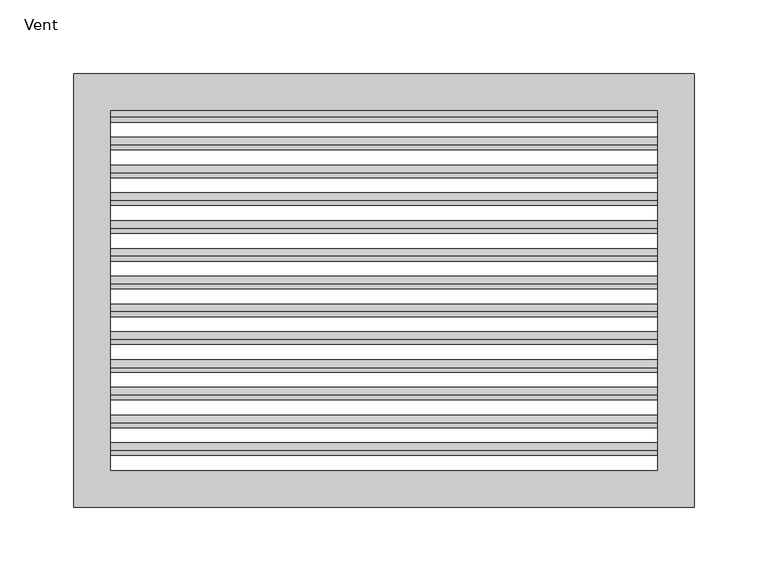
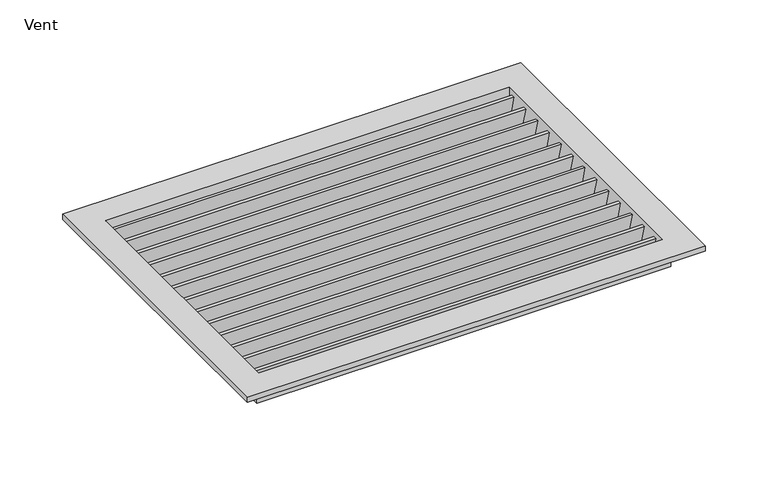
"""IFC4 building model written with IfcOpenShell, lengths in millimetres: air terminal geometry, Fire-Products_Fire-Protection_Regency-Fireplace_Ventilation-Grill : Vent."""

from ifc_helpers import new_model, si_unit, frame, origin, place, context, project, spatial, polyline, outline, extrude, faceted_brep, source, transform, mapped, element, save


def vent_1f9427f6(model_context):
    return source(origin(), model_context, "Body", "SolidModel", [
        extrude(outline(polyline([(117.2923296, 0.0), (122.6513134, -20.0), (119.5263134, -20.0), (114.1673296, 0.0), (117.2923296, 0.0)])), frame((-185.42, 0.0, 0.0), z_axis=(1.0, 0.0, 0.0), x_axis=(0.0, 1.0, 0.0)), (0.0, 0.0, 1.0), 370.84),
        extrude(outline(polyline([(98.4460276, 0.0), (103.8050115, -20.0), (100.6800115, -20.0), (95.3210276, 0.0), (98.4460276, 0.0)])), frame((-185.42, 0.0, 0.0), z_axis=(1.0, 0.0, 0.0), x_axis=(0.0, 1.0, 0.0)), (0.0, 0.0, 1.0), 370.84),
        extrude(outline(polyline([(79.5997257, 0.0), (84.9587095, -20.0), (81.8337095, -20.0), (76.4747257, 0.0), (79.5997257, 0.0)])), frame((-185.42, 0.0, 0.0), z_axis=(1.0, 0.0, 0.0), x_axis=(0.0, 1.0, 0.0)), (0.0, 0.0, 1.0), 370.84),
        extrude(outline(polyline([(60.7534237, 0.0), (66.1124076, -20.0), (62.9874076, -20.0), (57.6284237, 0.0), (60.7534237, 0.0)])), frame((-185.42, 0.0, 0.0), z_axis=(1.0, 0.0, 0.0), x_axis=(0.0, 1.0, 0.0)), (0.0, 0.0, 1.0), 370.84),
        extrude(outline(polyline([(41.9071218, 0.0), (47.2661056, -20.0), (44.1411056, -20.0), (38.7821218, 0.0), (41.9071218, 0.0)])), frame((-185.42, 0.0, 0.0), z_axis=(1.0, 0.0, 0.0), x_axis=(0.0, 1.0, 0.0)), (0.0, 0.0, 1.0), 370.84),
        extrude(outline(polyline([(23.0608198, 0.0), (28.4198037, -20.0), (25.2948037, -20.0), (19.9358198, 0.0), (23.0608198, 0.0)])), frame((-185.42, 0.0, 0.0), z_axis=(1.0, 0.0, 0.0), x_axis=(0.0, 1.0, 0.0)), (0.0, 0.0, 1.0), 370.84),
        extrude(outline(polyline([(4.2145178, 0.0), (9.5735017, -20.0), (6.4485017, -20.0), (1.0895178, 0.0), (4.2145178, 0.0)])), frame((-185.42, 0.0, 0.0), z_axis=(1.0, 0.0, 0.0), x_axis=(0.0, 1.0, 0.0)), (0.0, 0.0, 1.0), 370.84),
        extrude(outline(polyline([(-14.6317841, 0.0), (-9.2728003, -20.0), (-12.3978003, -20.0), (-17.7567841, 0.0), (-14.6317841, 0.0)])), frame((-185.42, 0.0, 0.0), z_axis=(1.0, 0.0, 0.0), x_axis=(0.0, 1.0, 0.0)), (0.0, 0.0, 1.0), 370.84),
        extrude(outline(polyline([(-33.4780861, 0.0), (-28.1191022, -20.0), (-31.2441022, -20.0), (-36.6030861, 0.0), (-33.4780861, 0.0)])), frame((-185.42, 0.0, 0.0), z_axis=(1.0, 0.0, 0.0), x_axis=(0.0, 1.0, 0.0)), (0.0, 0.0, 1.0), 370.84),
        extrude(outline(polyline([(-52.324388, 0.0), (-46.9654042, -20.0), (-50.0904042, -20.0), (-55.449388, 0.0), (-52.324388, 0.0)])), frame((-185.42, 0.0, 0.0), z_axis=(1.0, 0.0, 0.0), x_axis=(0.0, 1.0, 0.0)), (0.0, 0.0, 1.0), 370.84),
        extrude(outline(polyline([(-71.17069, 0.0), (-65.8117061, -20.0), (-68.9367061, -20.0), (-74.29569, 0.0), (-71.17069, 0.0)])), frame((-185.42, 0.0, 0.0), z_axis=(1.0, 0.0, 0.0), x_axis=(0.0, 1.0, 0.0)), (0.0, 0.0, 1.0), 370.84),
        extrude(outline(polyline([(-90.0169919, 0.0), (-84.6580081, -20.0), (-87.7830081, -20.0), (-93.1419919, 0.0), (-90.0169919, 0.0)])), frame((-185.42, 0.0, 0.0), z_axis=(1.0, 0.0, 0.0), x_axis=(0.0, 1.0, 0.0)), (0.0, 0.0, 1.0), 370.84),
        extrude(outline(polyline([(-108.8632939, 0.0), (-103.50431, -20.0), (-106.62931, -20.0), (-111.9882939, 0.0), (-108.8632939, 0.0)])), frame((-185.42, 0.0, 0.0), z_axis=(1.0, 0.0, 0.0), x_axis=(0.0, 1.0, 0.0)), (0.0, 0.0, 1.0), 370.84),
        faceted_brep([(190.5, -127.0, -20.0), (190.5, -127.0, 0.0), (-190.5, -127.0, 0.0), (-190.5, -127.0, -20.0), (185.5, -122.0, 5.0), (185.5, -122.0, -20.0), (-185.5, -122.0, -20.0), (-185.5, -122.0, 5.0), (210.5, -147.0, 0.0), (210.5, -147.0, 5.0), (-210.5, -147.0, 5.0), (-210.5, -147.0, 0.0), (-190.5, 127.0, 0.0), (-190.5, 127.0, -20.0), (-185.5, 122.0, -20.0), (-185.5, 122.0, 5.0), (-210.5, 147.0, 5.0), (-210.5, 147.0, 0.0), (190.5, 127.0, 0.0), (190.5, 127.0, -20.0), (185.5, 122.0, -20.0), (185.5, 122.0, 5.0), (210.5, 147.0, 5.0), (210.5, 147.0, 0.0)], [[[0, 1, 2, 3]], [[4, 5, 6, 7]], [[8, 9, 10, 11]], [[3, 2, 12, 13]], [[7, 6, 14, 15]], [[11, 10, 16, 17]], [[13, 12, 18, 19]], [[15, 14, 20, 21]], [[17, 16, 22, 23]], [[11, 17, 23, 8], [1, 18, 12, 2]], [[19, 18, 1, 0]], [[3, 13, 19, 0], [5, 20, 14, 6]], [[21, 20, 5, 4]], [[9, 22, 16, 10], [7, 15, 21, 4]], [[23, 22, 9, 8]]]),
    ])


if __name__ == "__main__":
    model = new_model("IFC4")
    model_context = context("Model", 3, world=origin())
    ifc_project = project(units=[si_unit("LENGTHUNIT", "METRE", prefix="MILLI")], contexts=[model_context])
    site = spatial("IfcSite", under=ifc_project)
    building = spatial("IfcBuilding", under=site)
    placement = place(None, origin())
    vent_shape = vent_1f9427f6(model_context)
    element("IfcAirTerminal", 1, ObjectType="Fire-Products_Fire-Protection_Regency-Fireplace_Ventilation-Grill : Vent", at=placement, inside=building, context=model_context, shape_type="MappedRepresentation", body=[
        mapped(vent_shape, transform((0.0, 0.0, 0.0), x_axis=(1.0, 0.0, 0.0), y_axis=(0.0, 1.0, 0.0), z_axis=(0.0, 0.0, 1.0))),
    ])
    save(model, "model.ifc")
